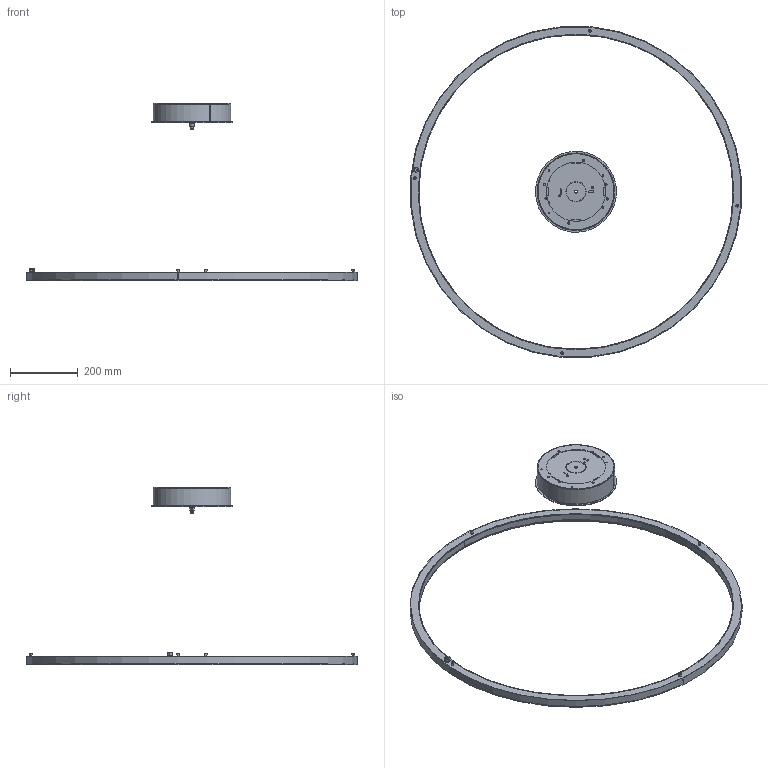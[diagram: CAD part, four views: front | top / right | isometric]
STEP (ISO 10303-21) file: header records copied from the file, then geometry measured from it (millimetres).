
FILE_DESCRIPTION (( 'STEP AP203' ), '1' );
FILE_NAME ('circus_1000.STEP', '2020-04-01T08:06:52', ( '' ), ( '' ), 'SwSTEP 2.0', 'SolidWorks 2019', '' );
FILE_SCHEMA (( 'CONFIG_CONTROL_DESIGN' ));
Length unit declared in the file: millimetre
Products named in the file (1): circus_1000
Bounding box: 979.48 x 979.48 x 525.1 mm (x, y, z)
Volume: 735580.4 mm3; surface area: 925068.5 mm2
Topology: 32 solids, 32 shells, 473 faces, 1063 edges, 684 vertices
Faces by surface type: cylinder 254, plane 157, cone 42, torus 20
Entity records: 13600 total; most frequent: DIRECTION 2603, CARTESIAN_POINT 2221, ORIENTED_EDGE 2126, AXIS2_PLACEMENT_3D 1066, EDGE_CURVE 1063, VERTEX_POINT 684, EDGE_LOOP 607, CIRCLE 592
